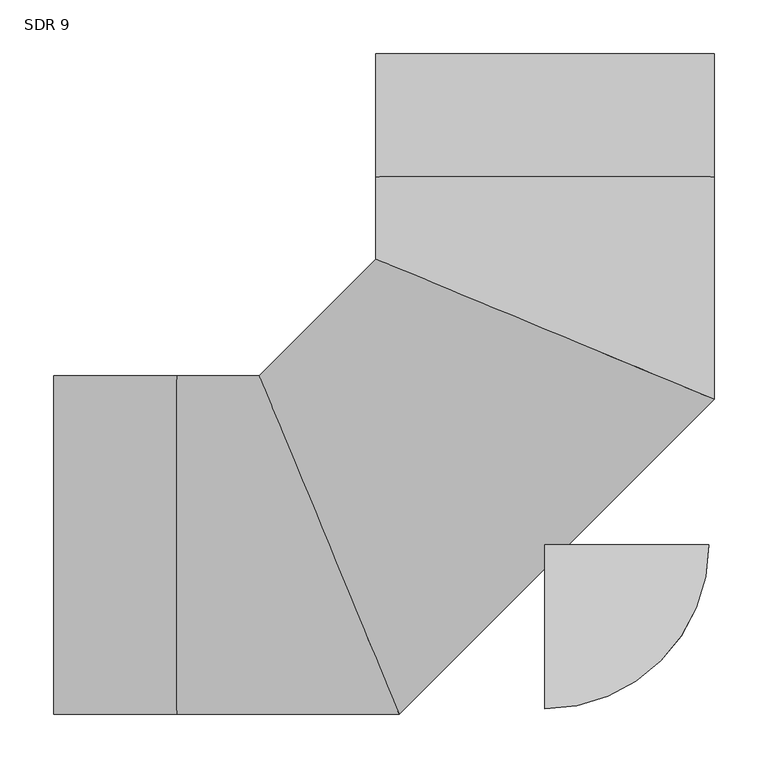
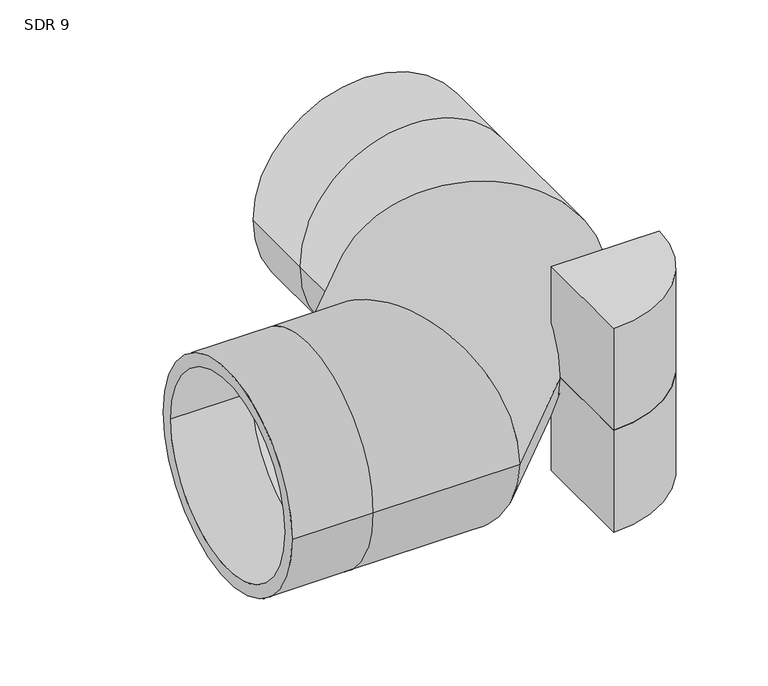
"""IFC4 building model written with IfcOpenShell, lengths in millimetres: pipe fitting geometry, Aquatherm - Elbow Blue BW Segmented : SDR 9."""

import ifcopenshell
import ifcopenshell.guid

model = None  # the IFC model being written
_history = None  # IfcOwnerHistory: only IFC2X3 demands one
_inside = {}  # id of a spatial element -> (the spatial element, [elements in it])
_under = {}  # id of a project, library or spatial element -> (it, [spatial elements below it])
_declared = {}  # id of a project -> (the project, [libraries it declares])
_typed = {}  # id of a type object -> (the type object, [elements of that type])
_made_of = {}  # id of a material, layer set ... -> (it, [elements and type objects made of it])


def new_model(schema):
    """Start an empty IFC model of exactly this schema.

    Asked for "IFC4X3", IfcOpenShell would pick the latest addendum, in which some entities
    have other attributes; the version numbers below select the first issue.
    IFC2X3 requires an IfcOwnerHistory on every rooted entity: one is made here for all.
    """
    global model, _history
    if schema == "IFC4X3":
        model = ifcopenshell.file(schema_version=(4, 3, 0, 0))
    else:
        model = ifcopenshell.file(schema=schema)
    _inside.clear()
    _under.clear()
    _declared.clear()
    _typed.clear()
    _made_of.clear()
    _history = None
    if model.schema == "IFC2X3":
        org = make("IfcOrganization", Name="unknown")
        user = make(
            "IfcPersonAndOrganization",
            ThePerson=make("IfcPerson", FamilyName="unknown"),
            TheOrganization=org,
        )
        app = make(
            "IfcApplication",
            ApplicationDeveloper=org,
            Version="unknown",
            ApplicationFullName="unknown",
            ApplicationIdentifier="unknown",
        )
        _history = make(
            "IfcOwnerHistory",
            OwningUser=user,
            OwningApplication=app,
            ChangeAction="ADDED",
            CreationDate=0,
        )
    return model


def make(cls, **values):
    """One entity of the class cls with the attributes given. An attribute that is None is left unset."""
    return model.create_entity(
        cls, **{name: value for name, value in values.items() if value is not None}
    )


def rooted(cls, **values):
    """An entity with a GlobalId (a new one), such as an element, a storey or a relation."""
    return make(cls, GlobalId=ifcopenshell.guid.new(), OwnerHistory=_history, **values)


def si_unit(unit_type, name, prefix=None):
    """IfcSIUnit, for example si_unit("LENGTHUNIT", "METRE", prefix="MILLI")."""
    return make("IfcSIUnit", UnitType=unit_type, Prefix=prefix, Name=name)


def assignment(units):
    """IfcUnitAssignment: the units of a project."""
    return None if units is None else make("IfcUnitAssignment", Units=units)


def point(xyz):
    """IfcCartesianPoint."""
    return None if xyz is None else make("IfcCartesianPoint", Coordinates=xyz)


def direction(xyz):
    """IfcDirection."""
    return None if xyz is None else make("IfcDirection", DirectionRatios=xyz)


def frame(location, z_axis=None, x_axis=None):
    """IfcAxis2Placement3D, a coordinate frame: its origin and axes. An axis left out is left unset."""
    return make(
        "IfcAxis2Placement3D",
        Location=point(location),
        Axis=direction(z_axis),
        RefDirection=direction(x_axis),
    )


def frame_2d(location, x_axis=None):
    """IfcAxis2Placement2D, a coordinate frame in the plane: its origin and x axis."""
    return make(
        "IfcAxis2Placement2D", Location=point(location), RefDirection=direction(x_axis)
    )


def origin():
    """The frame at (0, 0, 0) with its axes left unset."""
    return frame((0.0, 0.0, 0.0))


def origin_with_axes():
    """The frame at (0, 0, 0) with the z axis (0, 0, 1) and the x axis (1, 0, 0) written out."""
    return frame((0.0, 0.0, 0.0), z_axis=(0.0, 0.0, 1.0), x_axis=(1.0, 0.0, 0.0))


def origin_2d():
    """The frame at (0, 0) in the plane with its x axis left unset."""
    return frame_2d((0.0, 0.0))


def place(relative_to, where):
    """IfcLocalPlacement: puts the frame where relative to a parent placement (None: the world)."""
    return make(
        "IfcLocalPlacement", PlacementRelTo=relative_to, RelativePlacement=where
    )


def context(
    kind, dimensions, precision=None, world=None, true_north=None, identifier=None
):
    """IfcGeometricRepresentationContext, for example the 3D "Model" context."""
    return make(
        "IfcGeometricRepresentationContext",
        ContextIdentifier=identifier,
        ContextType=kind,
        CoordinateSpaceDimension=dimensions,
        Precision=precision,
        WorldCoordinateSystem=world,
        TrueNorth=true_north,
    )


def project(units=None, contexts=None):
    """IfcProject with its units and contexts."""
    return rooted(
        "IfcProject",
        Name="project",
        RepresentationContexts=contexts,
        UnitsInContext=assignment(units),
    )


def spatial(cls, under=None, at=None, **own):
    """A site, building, storey or space (cls), placed at a placement, below another one or the project."""
    s = rooted(cls, ObjectPlacement=at, **own)
    if under is not None:
        _under.setdefault(under.id(), (under, []))[1].append(s)
    return s


def polyline(points):
    """IfcPolyline through the points."""
    return make("IfcPolyline", Points=[point(p) for p in points])


def circle_curve(where, radius):
    """IfcCircle in the frame where."""
    return make("IfcCircle", Position=where, Radius=radius)


def ellipse_curve(where, semi_axis1, semi_axis2):
    """IfcEllipse in the frame where."""
    return make(
        "IfcEllipse", Position=where, SemiAxis1=semi_axis1, SemiAxis2=semi_axis2
    )


def trimmed(basis, trim1, trim2, sense, master):
    """IfcTrimmedCurve: the piece of a basis curve between two trims."""
    return make(
        "IfcTrimmedCurve",
        BasisCurve=basis,
        Trim1=trim1,
        Trim2=trim2,
        SenseAgreement=sense,
        MasterRepresentation=master,
    )


def segment(curve, same_sense, transition):
    """IfcCompositeCurveSegment."""
    return make(
        "IfcCompositeCurveSegment",
        Transition=transition,
        SameSense=same_sense,
        ParentCurve=curve,
    )


def composite_curve(segments, self_intersect=None):
    """IfcCompositeCurve: segments joined end to end."""
    return make("IfcCompositeCurve", Segments=segments, SelfIntersect=self_intersect)


def outline(outer, holes=None, kind="AREA"):
    """IfcArbitraryClosedProfileDef: a profile drawn as a closed curve; with holes, ...WithVoids."""
    if holes is None:
        return make("IfcArbitraryClosedProfileDef", ProfileType=kind, OuterCurve=outer)
    return make(
        "IfcArbitraryProfileDefWithVoids",
        ProfileType=kind,
        OuterCurve=outer,
        InnerCurves=holes,
    )


def extrude(swept, where, along, depth):
    """IfcExtrudedAreaSolid: the profile swept, set in the frame where, extruded along a direction by depth."""
    return make(
        "IfcExtrudedAreaSolid",
        SweptArea=swept,
        Position=where,
        ExtrudedDirection=direction(along),
        Depth=depth,
    )


def shape(context_of_items, identifier, shape_type, items):
    """IfcShapeRepresentation: the items that make up one representation, for example the "Body"."""
    return make(
        "IfcShapeRepresentation",
        ContextOfItems=context_of_items,
        RepresentationIdentifier=identifier,
        RepresentationType=shape_type,
        Items=items,
    )


def source(mapping_origin, context_of_items, identifier, shape_type, items):
    """IfcRepresentationMap: a shape defined once, which mapped items show again and again."""
    return make(
        "IfcRepresentationMap",
        MappingOrigin=mapping_origin,
        MappedRepresentation=shape(context_of_items, identifier, shape_type, items),
    )


def transform(
    local_origin,
    x_axis=None,
    y_axis=None,
    z_axis=None,
    scale=None,
    scale2=None,
    scale3=None,
    uniform=True,
):
    """IfcCartesianTransformationOperator3D, or its non-uniform kind. x_axis, y_axis, z_axis: its Axis1, 2, 3."""
    if uniform:
        return make(
            "IfcCartesianTransformationOperator3D",
            Axis1=direction(x_axis),
            Axis2=direction(y_axis),
            LocalOrigin=point(local_origin),
            Scale=scale,
            Axis3=direction(z_axis),
        )
    return make(
        "IfcCartesianTransformationOperator3DnonUniform",
        Axis1=direction(x_axis),
        Axis2=direction(y_axis),
        LocalOrigin=point(local_origin),
        Scale=scale,
        Axis3=direction(z_axis),
        Scale2=scale2,
        Scale3=scale3,
    )


def mapped(mapping_source, mapping_target):
    """IfcMappedItem: shows the shape of a source again, moved by a transform."""
    return make(
        "IfcMappedItem", MappingSource=mapping_source, MappingTarget=mapping_target
    )


def made_of(thing, what):
    """Note that an element or type object is made of a material, layer set ...; save() writes the relation."""
    if what is not None:
        _made_of.setdefault(what.id(), (what, []))[1].append(thing)
    return thing


def element(
    cls,
    number,
    at=None,
    inside=None,
    cuts=None,
    type_object=None,
    material=None,
    context=None,
    identifier="Body",
    shape_type=None,
    held_by="IfcProductDefinitionShape",
    body=None,
    shapes=None,
    **own,
):
    """One element of the class cls, such as IfcWall. Its Tag is "e" and its number.

    at: its placement. inside: the storey or other place that contains it. cuts: it is an
    opening in that element (IfcRelVoidsElement). A single representation is given by context,
    identifier, shape_type and body (its items); several are given by shapes. held_by: the class
    of the entity that holds the representations. save() writes the other relations.
    """
    e = rooted(cls, Tag="e%d" % number, ObjectPlacement=at, **own)
    if body is not None:
        shapes = [shape(context, identifier, shape_type, body)]
    if shapes is not None:
        e.Representation = make(held_by, Representations=shapes)
    if inside is not None:
        _inside.setdefault(inside.id(), (inside, []))[1].append(e)
    if cuts is not None:
        rooted(
            "IfcRelVoidsElement", RelatingBuildingElement=cuts, RelatedOpeningElement=e
        )
    if type_object is not None:
        _typed.setdefault(type_object.id(), (type_object, []))[1].append(e)
    return made_of(e, material)


def aggregate(whole, parts):
    """IfcRelAggregates: a whole, such as a stair, and the parts it consists of."""
    return rooted("IfcRelAggregates", RelatingObject=whole, RelatedObjects=parts)


def save(model, path):
    """Write the relations noted so far, then the file.

    IfcRelAggregates (storeys below a building ...), IfcRelContainedInSpatialStructure (elements
    in a storey), IfcRelDefinesByType, IfcRelAssociatesMaterial and IfcRelDeclares: one each for
    every whole, place, type object, material and project.
    """
    for whole, parts in _under.values():
        aggregate(whole, parts)
    for where, things in _inside.values():
        rooted(
            "IfcRelContainedInSpatialStructure",
            RelatedElements=things,
            RelatingStructure=where,
        )
    for kind, things in _typed.values():
        rooted("IfcRelDefinesByType", RelatedObjects=things, RelatingType=kind)
    for what, things in _made_of.values():
        rooted("IfcRelAssociatesMaterial", RelatedObjects=things, RelatingMaterial=what)
    for by, libraries in _declared.values():
        rooted("IfcRelDeclares", RelatingContext=by, RelatedDefinitions=libraries)
    model.write(path)


def plane_surface(at):
    """IfcPlane: the flat surface through the origin of the frame at, square to its z axis."""
    return make("IfcPlane", Position=at)


def cylinder_surface(at, radius):
    """IfcCylindricalSurface: all points at the distance radius from the z axis of the frame at."""
    return make("IfcCylindricalSurface", Position=at, Radius=radius)


def revolved_surface(curve, axis_point, axis_direction):
    """IfcSurfaceOfRevolution: the curve turned about the line through axis_point along axis_direction."""
    return make(
        "IfcSurfaceOfRevolution",
        SweptCurve=make("IfcArbitraryOpenProfileDef", ProfileType="CURVE", Curve=curve),
        AxisPosition=make("IfcAxis1Placement", Location=point(axis_point), Axis=direction(axis_direction)),
    )


def advanced_brep(points, edges, surfaces, faces):
    """IfcAdvancedBrep: a solid bounded by faces that lie on surfaces and meet in shared edges.

    An edge is (start, end): straight between two places in points (the first is 0);
    or (start, end, curve); or (start, end, curve, False) where it runs against its curve.
    A face is (place in surfaces, loops), or (place, loops, False) where it looks against
    its surface's normal. A loop lists edges by number (the first is 1), with a minus sign
    where the edge is run from its end to its start. The first loop is the outer one.
    """
    corners = [point(p) for p in points]
    vertices = [make("IfcVertexPoint", VertexGeometry=c) for c in corners]
    made = []
    for start, end, *more in edges:
        made.append(
            make(
                "IfcEdgeCurve",
                EdgeStart=vertices[start],
                EdgeEnd=vertices[end],
                EdgeGeometry=more[0] if more else make("IfcPolyline", Points=[corners[start], corners[end]]),
                SameSense=more[1] if len(more) > 1 else True,
            )
        )
    hull = []
    for where, loops, *sense in faces:
        bounds = []
        for j, loop in enumerate(loops):
            ring = [make("IfcOrientedEdge", EdgeElement=made[abs(k) - 1], Orientation=k > 0) for k in loop]
            bounds.append(
                make(
                    "IfcFaceOuterBound" if j == 0 else "IfcFaceBound",
                    Bound=make("IfcEdgeLoop", EdgeList=ring),
                    Orientation=True,
                )
            )
        hull.append(make("IfcAdvancedFace", Bounds=bounds, FaceSurface=surfaces[where], SameSense=sense[0] if sense else True))
    return make("IfcAdvancedBrep", Outer=make("IfcClosedShell", CfsFaces=hull))


def sdr_9_a418dc96(model_context):
    return source(origin(), model_context, "Body", "SolidModel", [
        extrude(outline(composite_curve([segment(polyline([(0.0, -152.4), (0.0, 0.0), (152.4, 0.0)]), True, "CONTINUOUS"), segment(trimmed(circle_curve(origin_2d(), 152.4), [point((152.4, 0.0))], [point((0.0, -152.4))], False, "CARTESIAN"), True, "CONTINUOUS")], self_intersect=False)), frame((0.0, 0.0, -152.4), z_axis=(0.0, 0.0, 1.0), x_axis=(1.0, 0.0, 0.0)), (0.0, 0.0, 1.0), 152.4),
        extrude(outline(composite_curve([segment(trimmed(circle_curve(origin_2d(), 152.4), [point((152.4, 0.0))], [point((0.0, -152.4))], False, "CARTESIAN"), True, "CONTINUOUS"), segment(polyline([(0.0, -152.4), (0.0, 0.0), (152.4, 0.0)]), True, "CONTINUOUS")], self_intersect=False)), origin_with_axes(), (0.0, 0.0, 1.0), 152.4),
        advanced_brep(
        [(-457.2, -157.48, 0.0), (-457.2, 157.48, 0.0), (-457.2, -139.586134, 0.0), (-457.2, 139.586134, 0.0), (157.48, 457.2, 0.0), (-157.48, 457.2, 0.0), (139.586134, 457.2, 0.0), (-139.586134, 457.2, 0.0), (-342.9, -157.48, 0.0), (-342.9, 157.48, 0.0), (-342.9, -139.586134, 0.0), (-342.9, 139.586134, 0.0), (-135.6358177, -157.48, 0.0), (-266.0965213, 157.48, 0.0), (-143.0476996, -139.586134, 0.0), (-258.6846393, 139.586134, 0.0), (157.48, 135.6358177, 0.0), (-157.48, 266.0965213, 0.0), (139.586134, 143.0476996, 0.0), (-139.586134, 258.6846393, 0.0), (-157.48, 342.9, 0.0), (157.48, 342.9, 0.0), (-139.586134, 342.9, 0.0), (139.586134, 342.9, 0.0)],
        [
            (0, 1, circle_curve(frame((-457.2, 0.0, 0.0), z_axis=(-1.0, 0.0, 0.0), x_axis=(0.0, 1.0, 0.0)), 157.48)),
            (1, 0, circle_curve(frame((-457.2, 0.0, 0.0), z_axis=(-1.0, 0.0, 0.0), x_axis=(0.0, 1.0, 0.0)), 157.48)),
            (2, 3, circle_curve(frame((-457.2, 0.0, 0.0), z_axis=(1.0, 0.0, 0.0), x_axis=(0.0, 1.0, 0.0)), 139.586134)),
            (3, 2, circle_curve(frame((-457.2, 0.0, 0.0), z_axis=(1.0, 0.0, 0.0), x_axis=(0.0, 1.0, 0.0)), 139.586134)),
            (4, 5, circle_curve(frame((0.0, 457.2, 0.0), z_axis=(0.0, 1.0, 0.0), x_axis=(-1.0, 0.0, 0.0)), 157.48)),
            (5, 4, circle_curve(frame((0.0, 457.2, 0.0), z_axis=(0.0, 1.0, 0.0), x_axis=(-1.0, 0.0, 0.0)), 157.48)),
            (6, 7, circle_curve(frame((0.0, 457.2, 0.0), z_axis=(0.0, -1.0, 0.0), x_axis=(-1.0, 0.0, 0.0)), 139.586134)),
            (7, 6, circle_curve(frame((0.0, 457.2, 0.0), z_axis=(0.0, -1.0, 0.0), x_axis=(-1.0, 0.0, 0.0)), 139.586134)),
            (0, 8),
            (8, 9, circle_curve(frame((-342.9, 0.0, 0.0), z_axis=(-1.0, 0.0, 0.0), x_axis=(0.0, 1.0, 0.0)), 157.48)),
            (9, 1),
            (9, 8, circle_curve(frame((-342.9, 0.0, 0.0), z_axis=(-1.0, 0.0, 0.0), x_axis=(0.0, 1.0, 0.0)), 157.48)),
            (2, 10),
            (10, 11, circle_curve(frame((-342.9, 0.0, 0.0), z_axis=(1.0, 0.0, 0.0), x_axis=(0.0, 1.0, 0.0)), 139.586134)),
            (11, 3),
            (11, 10, circle_curve(frame((-342.9, 0.0, 0.0), z_axis=(1.0, 0.0, 0.0), x_axis=(0.0, 1.0, 0.0)), 139.586134)),
            (8, 12),
            (12, 13, ellipse_curve(frame((-200.8661695, 0.0, 0.0), z_axis=(-0.9238795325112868, -0.38268343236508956, 0.0), x_axis=(-0.3826834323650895, 0.9238795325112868, 0.0)), 170.4551237, 157.48)),
            (13, 9),
            (13, 12, ellipse_curve(frame((-200.8661695, 0.0, 0.0), z_axis=(-0.9238795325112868, -0.38268343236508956, 0.0), x_axis=(-0.3826834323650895, 0.9238795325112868, 0.0)), 170.4551237, 157.48)),
            (10, 14),
            (14, 15, ellipse_curve(frame((-200.8661695, 0.0, 0.0), z_axis=(0.9238795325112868, 0.38268343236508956, 0.0), x_axis=(0.3826834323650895, -0.9238795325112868, 0.0)), 151.0869428, 139.586134)),
            (15, 11),
            (15, 14, ellipse_curve(frame((-200.8661695, 0.0, 0.0), z_axis=(0.9238795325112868, 0.38268343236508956, 0.0), x_axis=(0.3826834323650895, -0.9238795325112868, 0.0)), 151.0869428, 139.586134)),
            (12, 16),
            (16, 17, ellipse_curve(frame((0.0, 200.8661695, 0.0), z_axis=(-0.38268343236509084, -0.9238795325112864, 0.0), x_axis=(-0.9238795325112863, 0.3826834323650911, 0.0)), 170.4551237, 157.48)),
            (17, 13),
            (17, 16, ellipse_curve(frame((0.0, 200.8661695, 0.0), z_axis=(-0.38268343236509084, -0.9238795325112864, 0.0), x_axis=(-0.9238795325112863, 0.3826834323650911, 0.0)), 170.4551237, 157.48)),
            (14, 18),
            (18, 19, ellipse_curve(frame((0.0, 200.8661695, 0.0), z_axis=(0.38268343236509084, 0.9238795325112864, 0.0), x_axis=(0.9238795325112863, -0.3826834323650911, 0.0)), 151.0869428, 139.586134)),
            (19, 15),
            (19, 18, ellipse_curve(frame((0.0, 200.8661695, 0.0), z_axis=(0.38268343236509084, 0.9238795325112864, 0.0), x_axis=(0.9238795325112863, -0.3826834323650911, 0.0)), 151.0869428, 139.586134)),
            (20, 21, circle_curve(frame((0.0, 342.9, 0.0), z_axis=(0.0, 1.0, 0.0), x_axis=(-1.0, 0.0, 0.0)), 157.48)),
            (21, 4),
            (5, 20),
            (21, 20, circle_curve(frame((0.0, 342.9, 0.0), z_axis=(0.0, 1.0, 0.0), x_axis=(-1.0, 0.0, 0.0)), 157.48)),
            (22, 23, circle_curve(frame((0.0, 342.9, 0.0), z_axis=(0.0, -1.0, 0.0), x_axis=(-1.0, 0.0, 0.0)), 139.586134)),
            (23, 6),
            (7, 22),
            (23, 22, circle_curve(frame((0.0, 342.9, 0.0), z_axis=(0.0, -1.0, 0.0), x_axis=(-1.0, 0.0, 0.0)), 139.586134)),
            (16, 21),
            (20, 17),
            (18, 23),
            (22, 19),
        ],
        [
            plane_surface(frame((-457.2, 0.0, 0.0), z_axis=(-1.0, 0.0, 0.0), x_axis=(0.0, 0.0, 1.0))),
            plane_surface(frame((0.0, 457.2, 0.0), z_axis=(0.0, 1.0, 0.0), x_axis=(0.0, 0.0, 1.0))),
            cylinder_surface(frame((-457.2, 0.0, 0.0), z_axis=(-1.0, 0.0, 0.0), x_axis=(0.0, 1.0, 0.0)), 157.48),
            revolved_surface(polyline([(-342.9, 139.586134, 0.0), (-457.2, 139.586134, 0.0)]), (-457.2, 0.0, 0.0), (1.0, 0.0, 0.0)),
            cylinder_surface(frame((-342.9, 0.0, 0.0), z_axis=(-1.0, 0.0, 0.0), x_axis=(0.0, 1.0, 0.0)), 157.48),
            revolved_surface(polyline([(-143.0476996, 139.586134, 0.0), (-342.9, 139.586134, 0.0)]), (-342.9, 0.0, 0.0), (1.0, 0.0, 0.0)),
            cylinder_surface(frame((-200.8661695, 0.0, 0.0), z_axis=(-0.7071067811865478, -0.7071067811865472, 0.0), x_axis=(-0.7071067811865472, 0.7071067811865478, 0.0)), 157.48),
            revolved_surface(polyline([(-57.8184697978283, 340.4523035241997, 0.0), (-340.4523035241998, 57.81846979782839, 0.0)]), (-200.8661695, 0.0, 0.0), (0.7071067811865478, 0.7071067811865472, 0.0)),
            cylinder_surface(frame((0.0, 342.9, 0.0), z_axis=(0.0, -1.0, 0.0), x_axis=(-1.0, 0.0, 0.0)), 157.48),
            revolved_surface(polyline([(-139.586134, 457.2, 0.0), (-139.586134, 342.9, 0.0)]), (0.0, 342.9, 0.0), (0.0, 1.0, 0.0)),
            cylinder_surface(frame((0.0, 200.8661695, 0.0), z_axis=(0.0, -1.0, 0.0), x_axis=(-1.0, 0.0, 0.0)), 157.48),
            revolved_surface(polyline([(-139.586134, 342.9, 0.0), (-139.586134, 143.0476996, 0.0)]), (0.0, 200.8661695, 0.0), (0.0, 1.0, 0.0)),
        ],
        [
            (0, [[1, 2], [3, 4]]),
            (1, [[5, 6], [7, 8]]),
            (2, [[-1, 9, 10, 11]]),
            (2, [[-2, -11, 12, -9]]),
            (3, [[-3, 13, 14, 15]]),
            (3, [[-4, -15, 16, -13]]),
            (4, [[-10, 17, 18, 19]]),
            (4, [[-12, -19, 20, -17]]),
            (5, [[-14, 21, 22, 23]]),
            (5, [[-16, -23, 24, -21]]),
            (6, [[-18, 25, 26, 27]]),
            (6, [[-20, -27, 28, -25]]),
            (7, [[-22, 29, 30, 31]]),
            (7, [[-24, -31, 32, -29]]),
            (8, [[33, 34, -6, 35]]),
            (8, [[36, -35, -5, -34]]),
            (9, [[37, 38, -8, 39]]),
            (9, [[40, -39, -7, -38]]),
            (10, [[-26, 41, -33, 42]]),
            (10, [[-28, -42, -36, -41]]),
            (11, [[-30, 43, -37, 44]]),
            (11, [[-32, -44, -40, -43]]),
        ],
    ),
    ])


if __name__ == "__main__":
    model = new_model("IFC4")
    model_context = context("Model", 3, world=origin())
    ifc_project = project(units=[si_unit("LENGTHUNIT", "METRE", prefix="MILLI")], contexts=[model_context])
    site = spatial("IfcSite", under=ifc_project)
    building = spatial("IfcBuilding", under=site)
    placement = place(None, origin())
    sdr_9_shape = sdr_9_a418dc96(model_context)
    element("IfcPipeFitting", 1, ObjectType="Aquatherm - Elbow Blue BW Segmented : SDR 9", at=placement, inside=building, context=model_context, shape_type="MappedRepresentation", body=[
        mapped(sdr_9_shape, transform((0.0, 0.0, 0.0), x_axis=(1.0, 0.0, 0.0), y_axis=(0.0, 1.0, 0.0), z_axis=(0.0, 0.0, 1.0))),
    ])
    save(model, "model.ifc")
